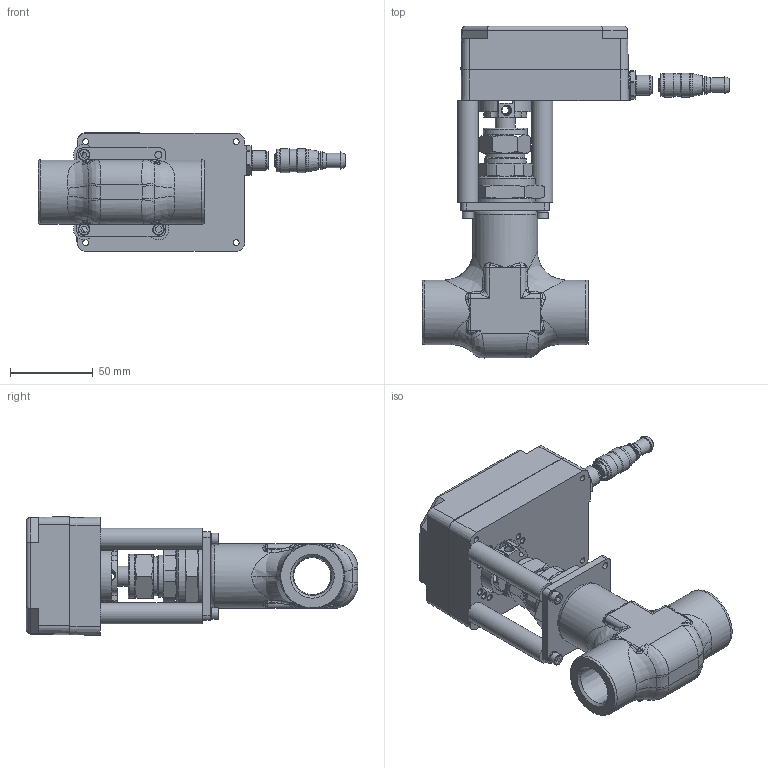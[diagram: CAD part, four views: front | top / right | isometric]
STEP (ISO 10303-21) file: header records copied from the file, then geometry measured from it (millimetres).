
FILE_DESCRIPTION (( 'STEP AP203' ), '1' );
FILE_NAME ('#M-Series Assembly w. NBSSFNS12-6R (Client Copy).STEP', '2019-10-29T17:17:22', ( 'Technician #5' ), ( '' ), 'SwSTEP 2.0', 'SolidWorks 2019', '' );
FILE_SCHEMA (( 'CONFIG_CONTROL_DESIGN' ));
Length unit declared in the file: inch
Products named in the file (2): #M-Series Assembly w. NBSSFNS12-6R (Client Copy)
Bounding box: 185.39 x 200.13 x 71.52 mm (x, y, z)
Surface area: 87178.5 mm2 (no closed solid volume)
Topology: 0 solids, 22 shells, 457 faces, 1418 edges, 980 vertices
Faces by surface type: cylinder 137, bspline 121, plane 114, cone 77, torus 8
Full cylindrical faces by diameter (mm): 3.568 x8, 3.569 x7, 4.216 x1, 4.914 x4, 5.41 x4, 6.858 x3, 6.985 x3, 8 x1, 8.3 x1, 8.8 x1, 10.5 x1, 10.8 x1, 11.15 x1, 12 x1, 12.1 x1, 12.3 x1, 12.7 x3, 13.7 x3, 14.5 x2, 23.5 x1, 25.4 x1, 26.5 x1, 31.75 x1, 36 x2, 39 x3
Entity records: 26637 total; most frequent: CARTESIAN_POINT 15991, ORIENTED_EDGE 2111, DIRECTION 1796, EDGE_CURVE 1265, VERTEX_POINT 932, AXIS2_PLACEMENT_3D 720, EDGE_LOOP 633, FACE_OUTER_BOUND 525
